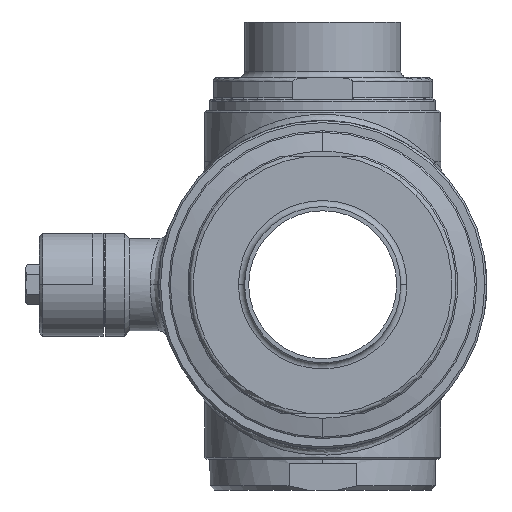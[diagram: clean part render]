
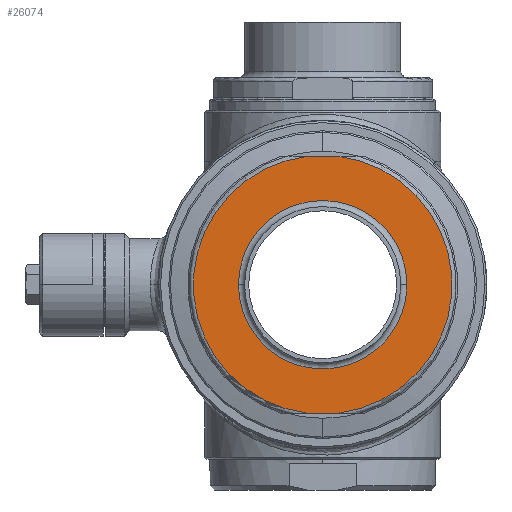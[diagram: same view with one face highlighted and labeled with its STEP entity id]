
A CAD part, left-side view. The second image highlights one B-rep face of the part: STEP entity #26074.
In plain terms, the highlighted planar face has unit normal (-1, 0, 0).
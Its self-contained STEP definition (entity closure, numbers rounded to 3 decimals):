
#8902=CARTESIAN_POINT('',(-101.,0.,0.));
#8903=DIRECTION('',(1.,0.,0.));
#8904=DIRECTION('',(0.,0.126,-0.992));
#8905=AXIS2_PLACEMENT_3D('',#8902,#8903,#8904);
#8910=DIRECTION('',(0.,-1.,0.));
#8911=VECTOR('',#8910,15.843);
#8912=CARTESIAN_POINT('',(-101.,7.921,62.5));
#8913=LINE('',#8912,#8911);
#8917=CARTESIAN_POINT('',(-101.,0.,0.));
#8918=DIRECTION('',(1.,0.,0.));
#8919=DIRECTION('',(0.,-0.126,0.992));
#8920=AXIS2_PLACEMENT_3D('',#8917,#8918,#8919);
#8925=DIRECTION('',(0.,-1.,0.));
#8926=VECTOR('',#8925,15.843);
#8927=CARTESIAN_POINT('',(-101.,7.921,-62.5));
#8928=LINE('',#8927,#8926);
#8932=CARTESIAN_POINT('',(-101.,0.,0.));
#8933=DIRECTION('',(-1.,0.,0.));
#8934=DIRECTION('',(0.,-1.,0.));
#8935=AXIS2_PLACEMENT_3D('',#8932,#8933,#8934);
#8940=CARTESIAN_POINT('',(-101.,0.,0.));
#8941=DIRECTION('',(-1.,0.,0.));
#8942=DIRECTION('',(0.,1.,0.));
#8943=AXIS2_PLACEMENT_3D('',#8940,#8941,#8942);
#8975=CARTESIAN_POINT('',(-101.,7.921,62.5));
#9108=CARTESIAN_POINT('',(-101.,-7.921,-62.5));
#18966=VERTEX_POINT('',#8975);
#18967=CARTESIAN_POINT('',(-101.,7.921,-62.5));
#18968=VERTEX_POINT('',#18967);
#18971=VERTEX_POINT('',#9108);
#18972=CARTESIAN_POINT('',(-101.,-7.921,62.5));
#18973=VERTEX_POINT('',#18972);
#18975=CARTESIAN_POINT('',(-101.,-41.05,0.));
#18976=CARTESIAN_POINT('',(-101.,41.05,0.));
#18977=VERTEX_POINT('',#18975);
#18978=VERTEX_POINT('',#18976);
#26054=CARTESIAN_POINT('',(-101.,0.,0.));
#26055=DIRECTION('',(-1.,0.,0.));
#26056=DIRECTION('',(0.,-1.,0.));
#26057=AXIS2_PLACEMENT_3D('',#26054,#26055,#26056);
#26058=PLANE('',#26057);
#26060=ORIENTED_EDGE('',*,*,#26059,.T.);
#26062=ORIENTED_EDGE('',*,*,#26061,.T.);
#26064=ORIENTED_EDGE('',*,*,#26063,.T.);
#26066=ORIENTED_EDGE('',*,*,#26065,.F.);
#26067=EDGE_LOOP('',(#26060,#26062,#26064,#26066));
#26068=FACE_OUTER_BOUND('',#26067,.F.);
#26069=ORIENTED_EDGE('',*,*,#26044,.T.);
#26071=ORIENTED_EDGE('',*,*,#26070,.T.);
#26072=EDGE_LOOP('',(#26069,#26071));
#26073=FACE_BOUND('',#26072,.F.);
#26074=ADVANCED_FACE('',(#26068,#26073),#26058,.T.);
#8906=CIRCLE('',#8905,63.);
#8921=CIRCLE('',#8920,63.);
#8936=CIRCLE('',#8935,41.05);
#8944=CIRCLE('',#8943,41.05);
#26044=EDGE_CURVE('',#18977,#18978,#8936,.T.);
#26059=EDGE_CURVE('',#18968,#18966,#8906,.T.);
#26061=EDGE_CURVE('',#18966,#18973,#8913,.T.);
#26063=EDGE_CURVE('',#18973,#18971,#8921,.T.);
#26065=EDGE_CURVE('',#18968,#18971,#8928,.T.);
#26070=EDGE_CURVE('',#18978,#18977,#8944,.T.);
